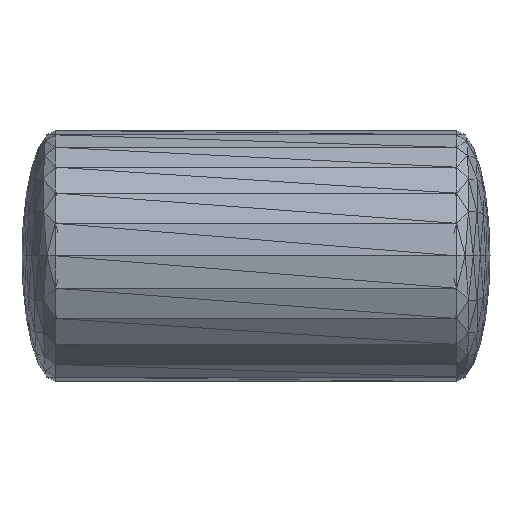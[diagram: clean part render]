
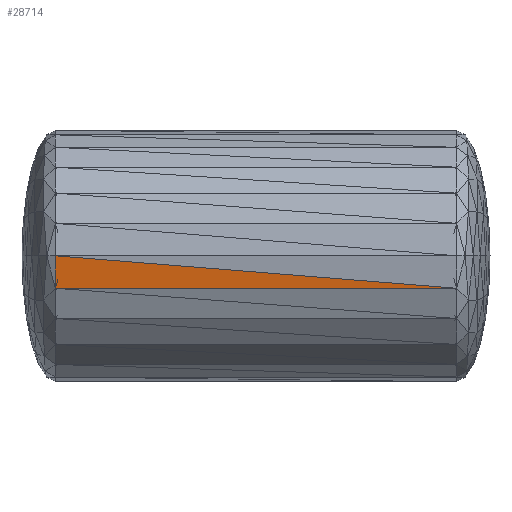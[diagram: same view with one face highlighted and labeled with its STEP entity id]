
A CAD part, top view. The second image highlights one B-rep face of the part: STEP entity #28714.
In plain terms, the highlighted planar face has unit normal (0, 0.131, -0.991).
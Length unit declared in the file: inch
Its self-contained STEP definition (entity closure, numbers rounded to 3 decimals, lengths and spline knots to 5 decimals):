
#28259=CARTESIAN_POINT('',(0.60003,-0.09724,0.86207));
#28260=VERTEX_POINT('',#28259);
#28443=CARTESIAN_POINT('',(-0.59996,-0.00018,0.87512));
#28444=VERTEX_POINT('',#28443);
#28478=CARTESIAN_POINT('',(0.60007,-0.09724,0.86208));
#28479=DIRECTION('',(-0.997,0.081,0.011));
#28480=VECTOR('',#28479,1.20398);
#28481=LINE('',#28478,#28480);
#28482=EDGE_CURVE('',#28260,#28444,#28481,.T.);
#28687=CARTESIAN_POINT('',(-0.59997,-0.09724,0.86231));
#28688=VERTEX_POINT('',#28687);
#28689=CARTESIAN_POINT('',(-0.59993,-0.09724,0.86232));
#28690=DIRECTION('',(0.,0.991,0.131));
#28691=VECTOR('',#28690,0.0979);
#28692=LINE('',#28689,#28691);
#28693=EDGE_CURVE('',#28688,#28444,#28692,.T.);
#28695=CARTESIAN_POINT('',(0.60007,-0.09724,0.86208));
#28696=DIRECTION('',(-1.,0.,0.));
#28697=VECTOR('',#28696,1.2);
#28698=LINE('',#28695,#28697);
#28699=EDGE_CURVE('',#28260,#28688,#28698,.T.);
#28704=CARTESIAN_POINT('',(-0.6,-0.09724,0.8622));
#28705=DIRECTION('',(0.,-0.131,0.991));
#28706=DIRECTION('',(1.,0.,0.));
#28707=AXIS2_PLACEMENT_3D('',#28704,#28705,#28706);
#28708=PLANE('',#28707);
#28709=ORIENTED_EDGE('',*,*,#28693,.T.);
#28710=ORIENTED_EDGE('',*,*,#28482,.F.);
#28711=ORIENTED_EDGE('',*,*,#28699,.T.);
#28712=EDGE_LOOP('',(#28709,#28710,#28711));
#28713=FACE_BOUND('',#28712,.T.);
#28714=ADVANCED_FACE('',(#28713),#28708,.F.);
